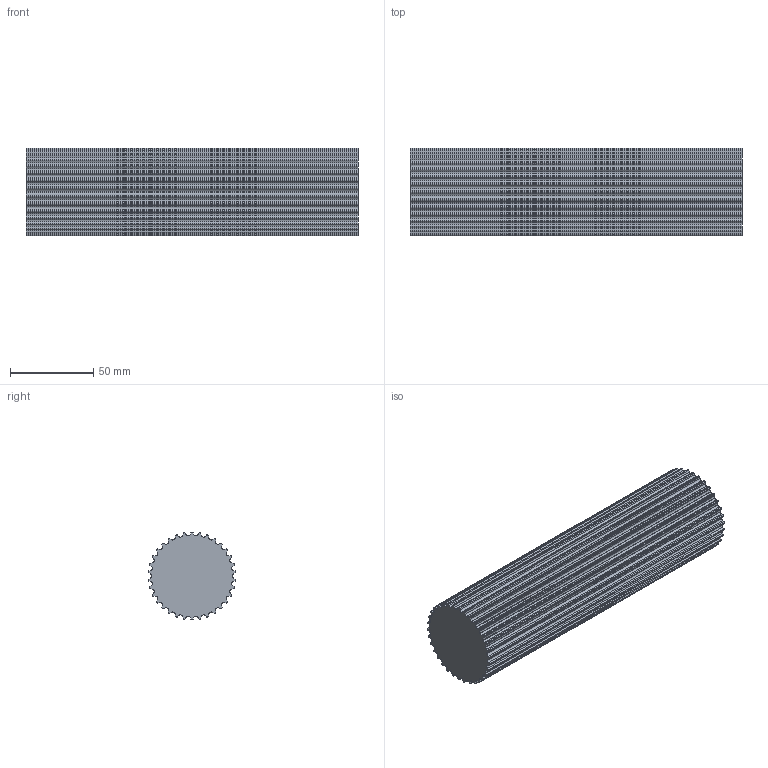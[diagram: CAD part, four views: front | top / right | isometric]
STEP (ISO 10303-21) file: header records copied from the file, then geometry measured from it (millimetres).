
FILE_DESCRIPTION( ( 'STEP AP214' ), '1' );
FILE_NAME( 'C:/Users/StangenbergN/Desktop/Steps Zahnriemenräder/K166_HTD-Zahnwellen/17293400.stp', '2019-06-06T09:41:53', ( '' ), ( '' ), ' ', 'PARTsolutions', ' ' );
FILE_SCHEMA( ( 'AUTOMOTIVE_DESIGN { 1 0 10303 214 1 1 1 1 }' ) );
Length unit declared in the file: millimetre
Products named in the file (1): _17293400
Bounding box: 200 x 52.77 x 52.97 mm (x, y, z)
Volume: 401584.9 mm3; surface area: 50324.6 mm2
Topology: 1 solids, 1 shells, 274 faces, 816 edges, 544 vertices
Faces by surface type: cylinder 170, plane 104
Entity records: 11548 total; most frequent: DIRECTION 1706, CARTESIAN_POINT 1635, ORIENTED_EDGE 1632, EDGE_CURVE 816, AXIS2_PLACEMENT_3D 615, VERTEX_POINT 544, LINE 476, VECTOR 476
